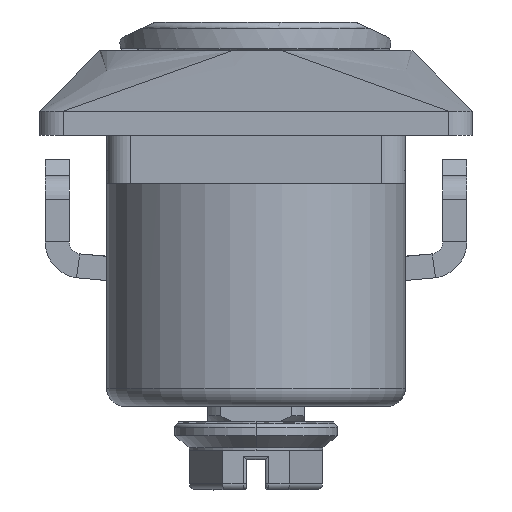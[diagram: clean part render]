
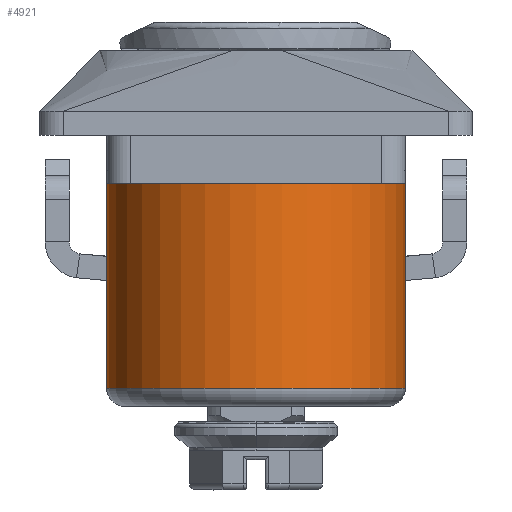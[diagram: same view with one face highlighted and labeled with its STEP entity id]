
A CAD part, front view. The second image highlights one B-rep face of the part: STEP entity #4921.
In plain terms, the highlighted cylindrical face has radius 12.4 mm (diameter 24.8 mm), a partial arc.
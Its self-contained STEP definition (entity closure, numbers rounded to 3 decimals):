
#1676=CARTESIAN_POINT('',(0.,23.5,51.5));
#1677=DIRECTION('',(0.,-1.,0.));
#1678=DIRECTION('',(1.,0.,0.));
#1679=AXIS2_PLACEMENT_3D('',#1676,#1677,#1678);
#1684=CARTESIAN_POINT('',(0.,23.5,51.5));
#1685=DIRECTION('',(0.,-1.,0.));
#1686=DIRECTION('',(1.,0.,0.003));
#1687=AXIS2_PLACEMENT_3D('',#1684,#1685,#1686);
#1692=CARTESIAN_POINT('',(0.,23.5,51.5));
#1693=DIRECTION('',(0.,-1.,0.));
#1694=DIRECTION('',(0.,0.,1.));
#1695=AXIS2_PLACEMENT_3D('',#1692,#1693,#1694);
#1754=DIRECTION('',(0.,-1.,0.));
#1755=VECTOR('',#1754,19.);
#1756=CARTESIAN_POINT('',(12.4,23.5,51.5));
#1757=LINE('',#1756,#1755);
#1761=DIRECTION('',(0.,1.,0.));
#1762=VECTOR('',#1761,19.);
#1763=CARTESIAN_POINT('',(-12.4,4.5,51.5));
#1764=LINE('',#1763,#1762);
#1768=CARTESIAN_POINT('',(0.,4.5,51.5));
#1769=DIRECTION('',(0.,1.,0.));
#1770=DIRECTION('',(-1.,0.,0.));
#1771=AXIS2_PLACEMENT_3D('',#1768,#1769,#1770);
#1776=CARTESIAN_POINT('',(0.,4.5,51.5));
#1777=DIRECTION('',(0.,1.,0.));
#1778=DIRECTION('',(0.,0.,1.));
#1779=AXIS2_PLACEMENT_3D('',#1776,#1777,#1778);
#3407=CARTESIAN_POINT('',(-12.4,4.5,51.5));
#3408=CARTESIAN_POINT('',(0.,4.5,63.9));
#3409=VERTEX_POINT('',#3407);
#3410=VERTEX_POINT('',#3408);
#3411=CARTESIAN_POINT('',(12.4,4.5,51.5));
#3412=VERTEX_POINT('',#3411);
#3465=CARTESIAN_POINT('',(0.,23.5,63.9));
#3466=CARTESIAN_POINT('',(-12.4,23.5,51.5));
#3467=VERTEX_POINT('',#3465);
#3468=VERTEX_POINT('',#3466);
#3469=CARTESIAN_POINT('',(12.4,23.5,51.537));
#3470=VERTEX_POINT('',#3469);
#3471=CARTESIAN_POINT('',(12.4,23.5,51.5));
#3472=VERTEX_POINT('',#3471);
#4904=CARTESIAN_POINT('',(0.,4.5,51.5));
#4905=DIRECTION('',(0.,1.,0.));
#4906=DIRECTION('',(0.,0.,1.));
#4907=AXIS2_PLACEMENT_3D('',#4904,#4905,#4906);
#4908=CYLINDRICAL_SURFACE('',#4907,12.4);
#4909=ORIENTED_EDGE('',*,*,#4873,.F.);
#4910=ORIENTED_EDGE('',*,*,#4871,.F.);
#4911=ORIENTED_EDGE('',*,*,#4869,.F.);
#4912=ORIENTED_EDGE('',*,*,#4560,.T.);
#4914=ORIENTED_EDGE('',*,*,#4913,.F.);
#4916=ORIENTED_EDGE('',*,*,#4915,.F.);
#4918=ORIENTED_EDGE('',*,*,#4917,.T.);
#4919=EDGE_LOOP('',(#4909,#4910,#4911,#4912,#4914,#4916,#4918));
#4920=FACE_OUTER_BOUND('',#4919,.F.);
#1680=CIRCLE('',#1679,12.4);
#1688=CIRCLE('',#1687,12.4);
#1696=CIRCLE('',#1695,12.4);
#1772=CIRCLE('',#1771,12.4);
#1780=CIRCLE('',#1779,12.4);
#4560=EDGE_CURVE('',#3472,#3412,#1757,.T.);
#4869=EDGE_CURVE('',#3472,#3470,#1680,.T.);
#4871=EDGE_CURVE('',#3470,#3467,#1688,.T.);
#4873=EDGE_CURVE('',#3467,#3468,#1696,.T.);
#4913=EDGE_CURVE('',#3410,#3412,#1780,.T.);
#4915=EDGE_CURVE('',#3409,#3410,#1772,.T.);
#4917=EDGE_CURVE('',#3409,#3468,#1764,.T.);
#4921=ADVANCED_FACE('',(#4920),#4908,.T.);
